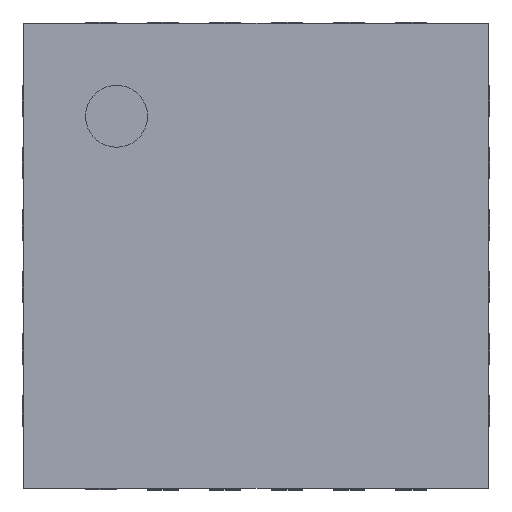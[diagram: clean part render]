
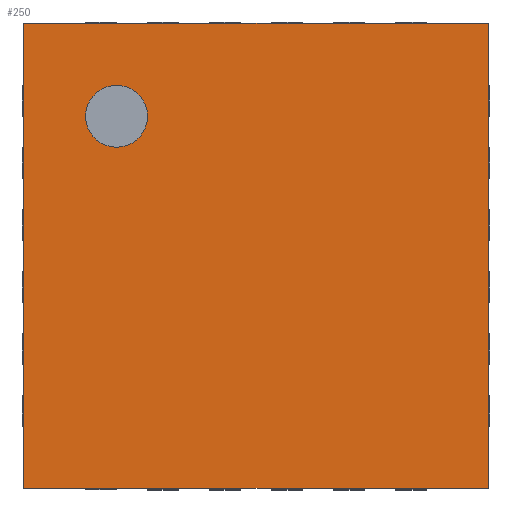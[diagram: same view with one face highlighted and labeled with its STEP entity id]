
A CAD part, top view. The second image highlights one B-rep face of the part: STEP entity #250.
In plain terms, the highlighted planar face has unit normal (0, 0, 1).
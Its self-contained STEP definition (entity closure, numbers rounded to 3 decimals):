
#138 = VERTEX_POINT('',#139);
#139 = CARTESIAN_POINT('',(-1.5,1.5,1.));
#145 = EDGE_CURVE('',#138,#146,#148,.T.);
#146 = VERTEX_POINT('',#147);
#147 = CARTESIAN_POINT('',(-1.5,-1.5,1.));
#148 = LINE('',#149,#150);
#149 = CARTESIAN_POINT('',(-1.5,1.5,1.));
#150 = VECTOR('',#151,1.);
#151 = DIRECTION('',(0.,-1.,0.));
#178 = VERTEX_POINT('',#179);
#179 = CARTESIAN_POINT('',(1.5,1.5,1.));
#185 = EDGE_CURVE('',#178,#138,#186,.T.);
#186 = LINE('',#187,#188);
#187 = CARTESIAN_POINT('',(1.5,1.5,1.));
#188 = VECTOR('',#189,1.);
#189 = DIRECTION('',(-1.,0.,0.));
#207 = EDGE_CURVE('',#146,#208,#210,.T.);
#208 = VERTEX_POINT('',#209);
#209 = CARTESIAN_POINT('',(1.5,-1.5,1.));
#210 = LINE('',#211,#212);
#211 = CARTESIAN_POINT('',(-1.5,-1.5,1.));
#212 = VECTOR('',#213,1.);
#213 = DIRECTION('',(1.,0.,0.));
#250 = ADVANCED_FACE('',(#251,#262),#273,.T.);
#251 = FACE_BOUND('',#252,.T.);
#252 = EDGE_LOOP('',(#253,#254,#255,#261));
#253 = ORIENTED_EDGE('',*,*,#145,.T.);
#254 = ORIENTED_EDGE('',*,*,#207,.T.);
#255 = ORIENTED_EDGE('',*,*,#256,.T.);
#256 = EDGE_CURVE('',#208,#178,#257,.T.);
#257 = LINE('',#258,#259);
#258 = CARTESIAN_POINT('',(1.5,-1.5,1.));
#259 = VECTOR('',#260,1.);
#260 = DIRECTION('',(0.,1.,0.));
#261 = ORIENTED_EDGE('',*,*,#185,.T.);
#262 = FACE_BOUND('',#263,.T.);
#263 = EDGE_LOOP('',(#264));
#264 = ORIENTED_EDGE('',*,*,#265,.F.);
#265 = EDGE_CURVE('',#266,#266,#268,.T.);
#266 = VERTEX_POINT('',#267);
#267 = CARTESIAN_POINT('',(-0.7,0.9,1.));
#268 = CIRCLE('',#269,0.2);
#269 = AXIS2_PLACEMENT_3D('',#270,#271,#272);
#270 = CARTESIAN_POINT('',(-0.9,0.9,1.));
#271 = DIRECTION('',(0.,0.,1.));
#272 = DIRECTION('',(1.,0.,0.));
#273 = PLANE('',#274);
#274 = AXIS2_PLACEMENT_3D('',#275,#276,#277);
#275 = CARTESIAN_POINT('',(0.,0.,1.));
#276 = DIRECTION('',(0.,0.,1.));
#277 = DIRECTION('',(1.,0.,0.));
